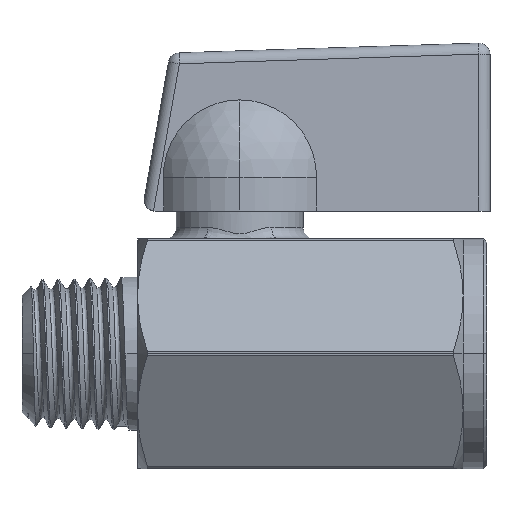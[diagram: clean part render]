
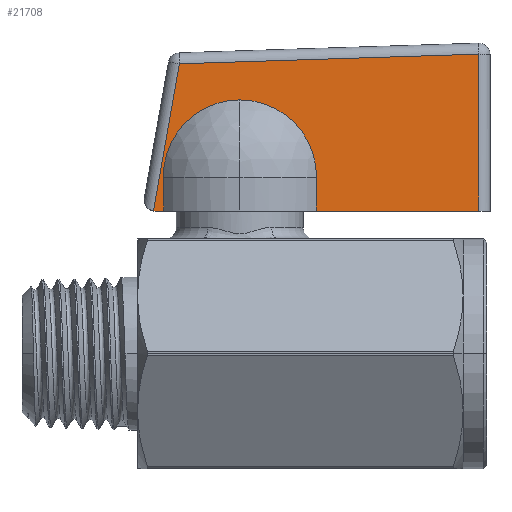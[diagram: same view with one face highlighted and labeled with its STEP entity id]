
A CAD part, top view. The second image highlights one B-rep face of the part: STEP entity #21708.
In plain terms, the highlighted planar face has unit normal (0.003, 0.017, 1) as drawn and (-0.017, -0.003, -1) by its records, which use the part's own axes.
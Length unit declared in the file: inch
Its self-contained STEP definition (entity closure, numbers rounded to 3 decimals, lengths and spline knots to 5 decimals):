
#162 = DIRECTION ( 'NONE',  ( 0.174, -0.985, 0. ) ) ;
#219 = ORIENTED_EDGE ( 'NONE', *, *, #25232, .T. ) ;
#904 = CARTESIAN_POINT ( 'NONE',  ( 0., 0.34137, -0.18897 ) ) ;
#1236 = CARTESIAN_POINT ( 'NONE',  ( 0., -0.8387, -0.1854 ) ) ;
#1378 = FACE_OUTER_BOUND ( 'NONE', #4468, .T. ) ;
#1772 = CARTESIAN_POINT ( 'NONE',  ( 0.21877, -0.8387, -0.18916 ) ) ;
#1943 = DIRECTION ( 'NONE',  ( 0.017, 0.003, 1. ) ) ;
#2171 = CARTESIAN_POINT ( 'NONE',  ( 0., -0.26789, -0.18713 ) ) ;
#2776 = ORIENTED_EDGE ( 'NONE', *, *, #18727, .T. ) ;
#3014 = VECTOR ( 'NONE', #15078, 39.37008 ) ;
#3061 = ORIENTED_EDGE ( 'NONE', *, *, #5489, .F. ) ;
#3456 = CARTESIAN_POINT ( 'NONE',  ( -0.1213, -0.00056, -0.18585 ) ) ;
#3464 = CIRCLE ( 'NONE', #28179, 0.26875 ) ;
#3555 = CARTESIAN_POINT ( 'NONE',  ( -0.03927, 0.26722, -0.18807 ) ) ;
#3694 = DIRECTION ( 'NONE',  ( 0., 1., -0.003 ) ) ;
#3828 = LINE ( 'NONE', #16975, #23521 ) ;
#3984 = LINE ( 'NONE', #1772, #17108 ) ;
#4061 = LINE ( 'NONE', #14859, #19853 ) ;
#4468 = EDGE_LOOP ( 'NONE', ( #3061, #24009, #219, #2776, #26624, #22540, #21719, #19288, #22993, #14535 ) ) ;
#5489 = EDGE_CURVE ( 'NONE', #21389, #13968, #25459, .T. ) ;
#5764 = LINE ( 'NONE', #23560, #3014 ) ;
#5899 = EDGE_CURVE ( 'NONE', #15374, #8541, #25796, .T. ) ;
#6755 = CARTESIAN_POINT ( 'NONE',  ( -0.51669, 0.21144, -0.1797 ) ) ;
#6911 = VERTEX_POINT ( 'NONE', #6755 ) ;
#7166 = CARTESIAN_POINT ( 'NONE',  ( 0., -0.26789, -0.18713 ) ) ;
#8221 = CARTESIAN_POINT ( 'NONE',  ( 0., 0.26675, -0.18875 ) ) ;
#8541 = VERTEX_POINT ( 'NONE', #16796 ) ;
#9726 = VERTEX_POINT ( 'NONE', #20687 ) ;
#10024 = DIRECTION ( 'NONE',  ( 1., 0., -0.017 ) ) ;
#10300 = PLANE ( 'NONE',  #21185 ) ;
#10341 = EDGE_CURVE ( 'NONE', #15242, #13968, #20568, .T. ) ;
#11065 = EDGE_CURVE ( 'NONE', #28657, #15242, #22055, .T. ) ;
#11637 = CARTESIAN_POINT ( 'NONE',  ( -0.0006, 0.30244, -0.18884 ) ) ;
#12172 = CARTESIAN_POINT ( 'NONE',  ( -0.39002, 0., -0.18123 ) ) ;
#12494 = DIRECTION ( 'NONE',  ( 1., 0., -0.017 ) ) ;
#12938 = CARTESIAN_POINT ( 'NONE',  ( 0., 0.2956, -0.18883 ) ) ;
#13213 = CARTESIAN_POINT ( 'NONE',  ( -0.0006, 0.30244, -0.18884 ) ) ;
#13968 = VERTEX_POINT ( 'NONE', #2171 ) ;
#14441 = CARTESIAN_POINT ( 'NONE',  ( -0.11811, -0.2693, -0.18509 ) ) ;
#14535 = ORIENTED_EDGE ( 'NONE', *, *, #10341, .T. ) ;
#14859 = CARTESIAN_POINT ( 'NONE',  ( -0.55168, -0.87328, -0.17581 ) ) ;
#15078 = DIRECTION ( 'NONE',  ( 0.985, 0.174, -0.017 ) ) ;
#15242 = VERTEX_POINT ( 'NONE', #14441 ) ;
#15374 = VERTEX_POINT ( 'NONE', #11637 ) ;
#15667 = CARTESIAN_POINT ( 'NONE',  ( 0.21877, -0.89818, -0.18898 ) ) ;
#16148 = EDGE_CURVE ( 'NONE', #24191, #21375, #22426, .T. ) ;
#16796 = CARTESIAN_POINT ( 'NONE',  ( 0., 0.2956, -0.18883 ) ) ;
#16975 = CARTESIAN_POINT ( 'NONE',  ( 0., 0.34137, -0.18897 ) ) ;
#17108 = VECTOR ( 'NONE', #19601, 39.37008 ) ;
#17968 = CARTESIAN_POINT ( 'NONE',  ( -0.03927, -0.26836, -0.18645 ) ) ;
#18110 = CARTESIAN_POINT ( 'NONE',  ( -0.11811, -0.2693, -0.18509 ) ) ;
#18727 = EDGE_CURVE ( 'NONE', #6911, #15374, #5764, .T. ) ;
#19027 = CARTESIAN_POINT ( 'NONE',  ( -0.11811, 0.26817, -0.18672 ) ) ;
#19288 = ORIENTED_EDGE ( 'NONE', *, *, #20550, .T. ) ;
#19601 = DIRECTION ( 'NONE',  ( -1., 0., 0.017 ) ) ;
#19853 = VECTOR ( 'NONE', #23627, 39.37008 ) ;
#20550 = EDGE_CURVE ( 'NONE', #21375, #28657, #3464, .T. ) ;
#20568 =( BOUNDED_CURVE ( )  B_SPLINE_CURVE ( 3, ( #18110, #27174, #17968, #7166 ),
 .UNSPECIFIED., .F., .T. ) 
 B_SPLINE_CURVE_WITH_KNOTS ( ( 4, 4 ),
 ( 5.31758, 5.32516 ),
 .UNSPECIFIED. ) 
 CURVE ( )  GEOMETRIC_REPRESENTATION_ITEM ( )  RATIONAL_B_SPLINE_CURVE ( ( 1., 1., 1., 1. ) ) 
 REPRESENTATION_ITEM ( '' )  );
#20687 = CARTESIAN_POINT ( 'NONE',  ( -0.55057, -0.8387, -0.17593 ) ) ;
#21079 = DIRECTION ( 'NONE',  ( 0., 1., -0.003 ) ) ;
#21185 = AXIS2_PLACEMENT_3D ( 'NONE', #15667, #22378, #162 ) ;
#21375 = VERTEX_POINT ( 'NONE', #22585 ) ;
#21389 = VERTEX_POINT ( 'NONE', #1236 ) ;
#21401 = DIRECTION ( 'NONE',  ( 0.017, 0.003, 1. ) ) ;
#21708 = ADVANCED_FACE ( 'NONE', ( #1378 ), #10300, .F. ) ;
#21719 = ORIENTED_EDGE ( 'NONE', *, *, #16148, .T. ) ;
#21946 = EDGE_CURVE ( 'NONE', #24191, #8541, #3828, .T. ) ;
#21960 = CARTESIAN_POINT ( 'NONE',  ( -0.1213, -0.00056, -0.18585 ) ) ;
#22055 = CIRCLE ( 'NONE', #25299, 0.26875 ) ;
#22118 = CARTESIAN_POINT ( 'NONE',  ( 0., 0.29789, -0.18884 ) ) ;
#22253 = CARTESIAN_POINT ( 'NONE',  ( -0.0002, 0.30018, -0.18884 ) ) ;
#22378 = DIRECTION ( 'NONE',  ( 0.017, 0.003, 1. ) ) ;
#22426 =( BOUNDED_CURVE ( )  B_SPLINE_CURVE ( 3, ( #8221, #3555, #25882, #19027 ),
 .UNSPECIFIED., .F., .T. ) 
 B_SPLINE_CURVE_WITH_KNOTS ( ( 4, 4 ),
 ( 0.95803, 0.9656 ),
 .UNSPECIFIED. ) 
 CURVE ( )  GEOMETRIC_REPRESENTATION_ITEM ( )  RATIONAL_B_SPLINE_CURVE ( ( 1., 1., 1., 1. ) ) 
 REPRESENTATION_ITEM ( '' )  );
#22540 = ORIENTED_EDGE ( 'NONE', *, *, #21946, .F. ) ;
#22585 = CARTESIAN_POINT ( 'NONE',  ( -0.11811, 0.26817, -0.18672 ) ) ;
#22993 = ORIENTED_EDGE ( 'NONE', *, *, #11065, .T. ) ;
#23521 = VECTOR ( 'NONE', #3694, 39.37008 ) ;
#23560 = CARTESIAN_POINT ( 'NONE',  ( 0.00684, 0.30375, -0.18898 ) ) ;
#23627 = DIRECTION ( 'NONE',  ( 0.032, 0.999, -0.004 ) ) ;
#24009 = ORIENTED_EDGE ( 'NONE', *, *, #26949, .T. ) ;
#24191 = VERTEX_POINT ( 'NONE', #28512 ) ;
#25232 = EDGE_CURVE ( 'NONE', #9726, #6911, #4061, .T. ) ;
#25299 = AXIS2_PLACEMENT_3D ( 'NONE', #3456, #21401, #10024 ) ;
#25459 = LINE ( 'NONE', #904, #28124 ) ;
#25796 =( BOUNDED_CURVE ( )  B_SPLINE_CURVE ( 3, ( #13213, #22253, #22118, #12938 ),
 .UNSPECIFIED., .F., .F. ) 
 B_SPLINE_CURVE_WITH_KNOTS ( ( 4, 4 ),
 ( 0., 0.17453 ),
 .UNSPECIFIED. ) 
 CURVE ( )  GEOMETRIC_REPRESENTATION_ITEM ( )  RATIONAL_B_SPLINE_CURVE ( ( 1., 0.997, 0.997, 1. ) ) 
 REPRESENTATION_ITEM ( '' )  );
#25882 = CARTESIAN_POINT ( 'NONE',  ( -0.07864, 0.2677, -0.1874 ) ) ;
#26624 = ORIENTED_EDGE ( 'NONE', *, *, #5899, .T. ) ;
#26949 = EDGE_CURVE ( 'NONE', #21389, #9726, #3984, .T. ) ;
#27174 = CARTESIAN_POINT ( 'NONE',  ( -0.07864, -0.26883, -0.18577 ) ) ;
#28124 = VECTOR ( 'NONE', #21079, 39.37008 ) ;
#28179 = AXIS2_PLACEMENT_3D ( 'NONE', #21960, #1943, #12494 ) ;
#28512 = CARTESIAN_POINT ( 'NONE',  ( 0., 0.26675, -0.18875 ) ) ;
#28657 = VERTEX_POINT ( 'NONE', #12172 ) ;
